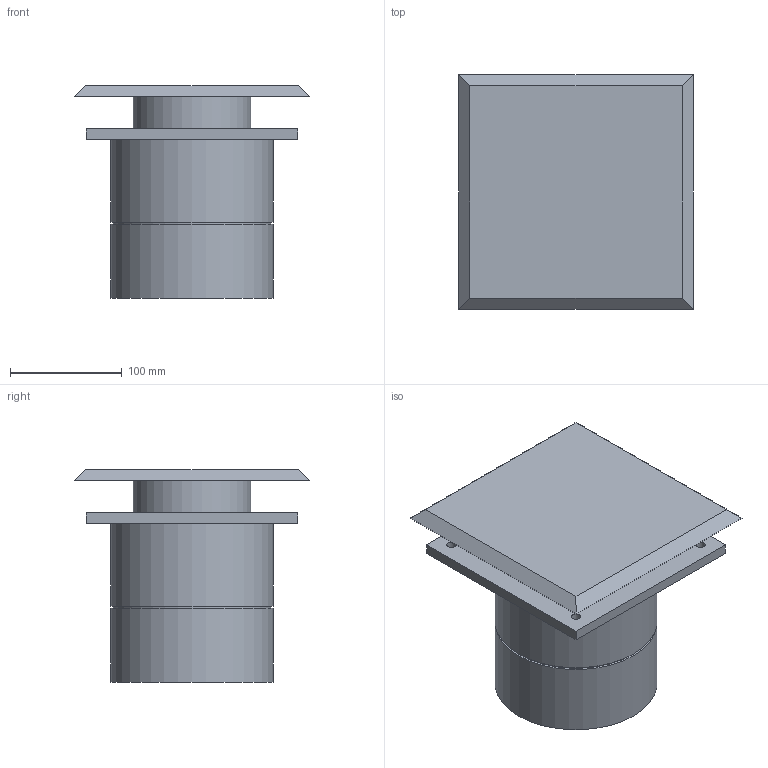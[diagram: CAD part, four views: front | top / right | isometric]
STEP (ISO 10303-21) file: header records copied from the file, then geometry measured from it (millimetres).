
FILE_DESCRIPTION(/* description */ (''),/* implementation_level */ '2;1');
FILE_NAME(/* name */ 'Z:\Output\M-150_0-10V-06044-002.stp',/* time_stamp */ '2017-07-19T16:23:33+02:00',/* author */ ('engineering1'),/* organization */ (''),/* preprocessor_version */ 'ST-DEVELOPER v16.5',/* originating_system */ 'Autodesk Inventor 2017',/* authorisation */ '');
FILE_SCHEMA (('AUTOMOTIVE_DESIGN { 1 0 10303 214 3 1 1 }'));
Length unit declared in the file: millimetre
Products named in the file (1): M1
Bounding box: 210 x 210 x 190 mm (x, y, z)
Volume: 3309779.7 mm3; surface area: 229098.2 mm2
Topology: 1 solids, 1 shells, 23 faces, 50 edges, 34 vertices
Faces by surface type: plane 15, cylinder 8
Full cylindrical faces by diameter (mm): 8.4 x4, 105 x1, 141 x1, 145 x2
Entity records: 624 total; most frequent: DIRECTION 104, CARTESIAN_POINT 96, ORIENTED_EDGE 80, EDGE_LOOP 44, EDGE_CURVE 40, AXIS2_PLACEMENT_3D 40, VERTEX_POINT 32, LINE 24
